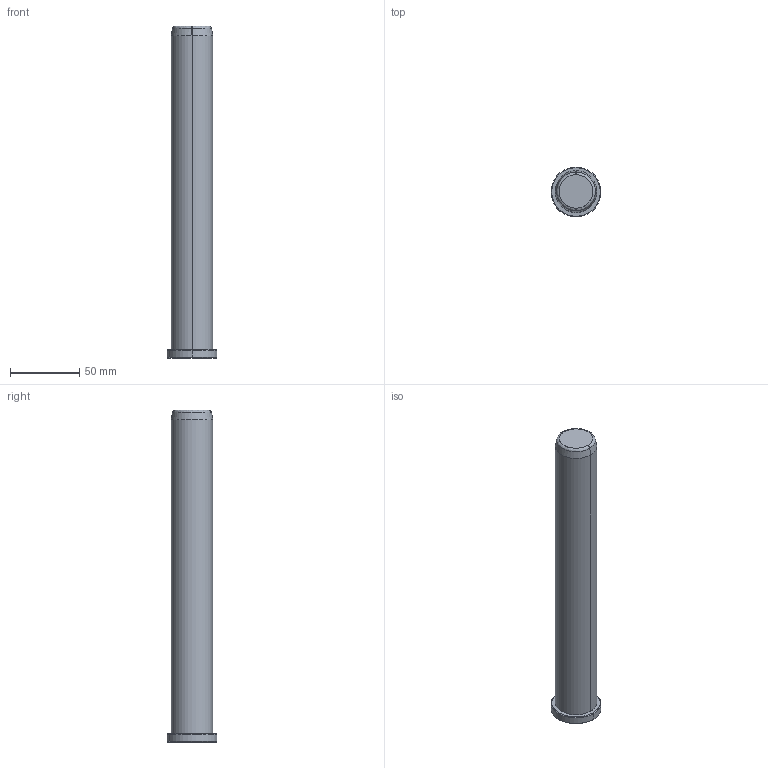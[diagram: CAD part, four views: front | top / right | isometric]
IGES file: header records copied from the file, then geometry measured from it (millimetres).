
Start section: START RECORD GO HERE.
Global section: file name: B81830240.igs; native system: DASSAULT SYSTEMES CATIA V5 R20 - www.3ds.com; preprocessor: CATIA Version 5 Release 20 ; author: Utente; organization: NB04-ASUS; date: 20200419.172019; units: millimetre
Bounding box: 36 x 36 x 240 mm (x, y, z)
Surface area: 24522.3 mm2 (no closed solid volume)
Topology: 0 solids, 0 shells, 17 faces, 68 edges, 68 vertices
Faces by surface type: revolution 14, plane 3
